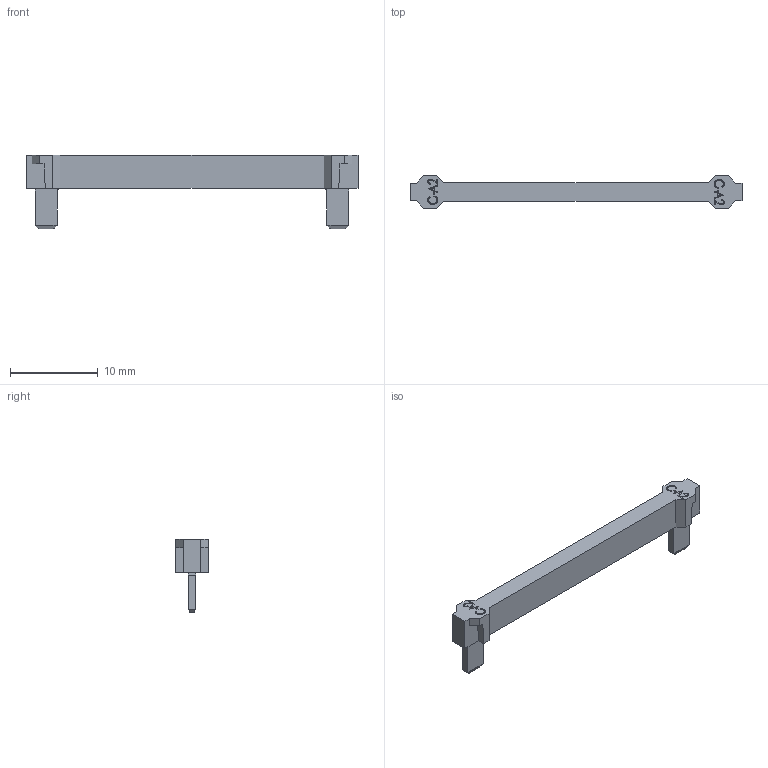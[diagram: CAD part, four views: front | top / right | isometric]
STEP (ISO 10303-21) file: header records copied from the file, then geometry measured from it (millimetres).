
FILE_DESCRIPTION (( 'STEP AP214' ), '1' );
FILE_NAME ('C-A2.STEP', '2024-04-23T05:15:34', ( '' ), ( '' ), 'SwSTEP 2.0', 'SolidWorks 2022', '' );
FILE_SCHEMA (( 'AUTOMOTIVE_DESIGN' ));
Length unit declared in the file: millimetre
Products named in the file (1): C-A2
Bounding box: 37.8 x 3.7 x 8.4 mm (x, y, z)
Volume: 337.3 mm3; surface area: 550.6 mm2
Topology: 1 solids, 1 shells, 144 faces, 382 edges, 252 vertices
Faces by surface type: plane 108, bspline 30, cylinder 6
Entity records: 7772 total; most frequent: CARTESIAN_POINT 2801, ORIENTED_EDGE 764, DIRECTION 548, EDGE_CURVE 382, VECTOR 310, LINE 310, VERTEX_POINT 252, EDGE_LOOP 156
